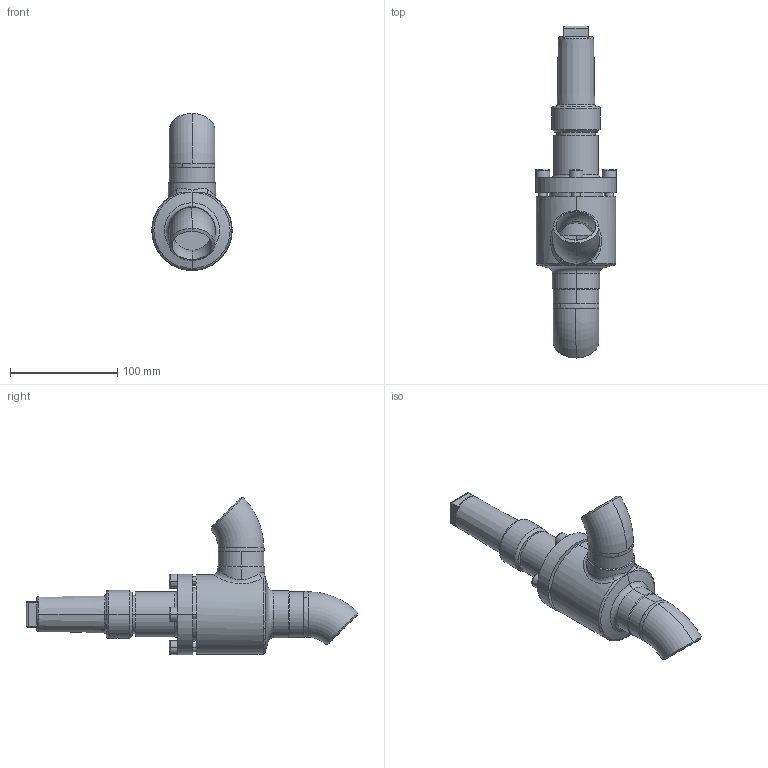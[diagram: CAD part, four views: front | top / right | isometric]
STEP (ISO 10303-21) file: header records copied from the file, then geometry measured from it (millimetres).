
FILE_DESCRIPTION (( 'STEP AP214' ), '1' );
FILE_NAME ('RVA29300D13-DN032_R1_PS40.STEP', '2006-04-28T05:32:08', ( 'Herr Grams' ), ( 'AWP GmbH' ), 'SwSTEP 2.0', 'SolidWorks 2002296', '' );
FILE_SCHEMA (( 'AUTOMOTIVE_DESIGN' ));
Length unit declared in the file: millimetre
Products named in the file (10): RVA29300D13-DN032_R1_PS40; Gehäuse-kpl16300-DN032_R1_Standard; Gehäuse16400-DN032_Standard; Rohrbogen 45°_R1-Fase_Rohrbogen-DN032-45°; bead16300-Geh-032-2_Standard; bead16300-Geh-032-1_Standard; Kappe16402_DN010-32_Standard; RVA29300E13_Deck-Schr-DN25-32_Standard; Deckel29300E13-DN25-32_Standard; Zylinderschraube-DIN912_M 8x 25
Assembly tree (13 placements, depth 3):
  RVA29300D13-DN032_R1_PS40
    Gehäuse-kpl16300-DN032_R1_Standard
      bead16300-Geh-032-1_Standard
      Rohrbogen 45°_R1-Fase_Rohrbogen-DN032-45°  x2
      Gehäuse16400-DN032_Standard
      bead16300-Geh-032-2_Standard
    Kappe16402_DN010-32_Standard
    RVA29300E13_Deck-Schr-DN25-32_Standard
      Zylinderschraube-DIN912_M 8x 25  x4
      Deckel29300E13-DN25-32_Standard
Bounding box: 75 x 309.43 x 146.43 mm (x, y, z)
Volume: 445696.8 mm3; surface area: 118382.6 mm2
Topology: 11 solids, 11 shells, 235 faces, 530 edges, 333 vertices
Faces by surface type: cylinder 76, plane 72, cone 46, torus 31, bspline 10
Entity records: 33906 total; most frequent: CARTESIAN_POINT 29400, DIRECTION 844, ORIENTED_EDGE 788, EDGE_CURVE 394, AXIS2_PLACEMENT_3D 357, VERTEX_POINT 247, EDGE_LOOP 199, CIRCLE 178
